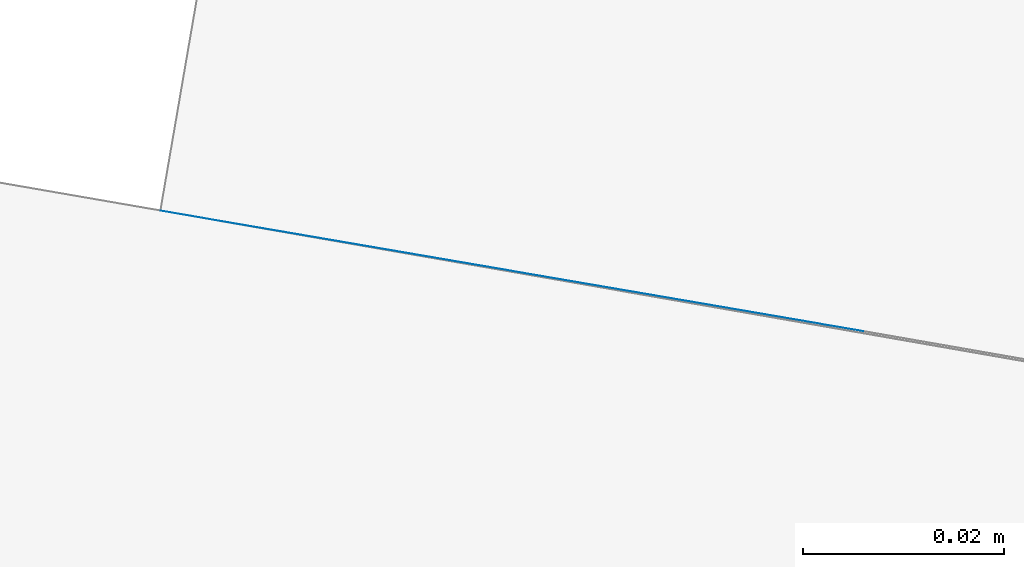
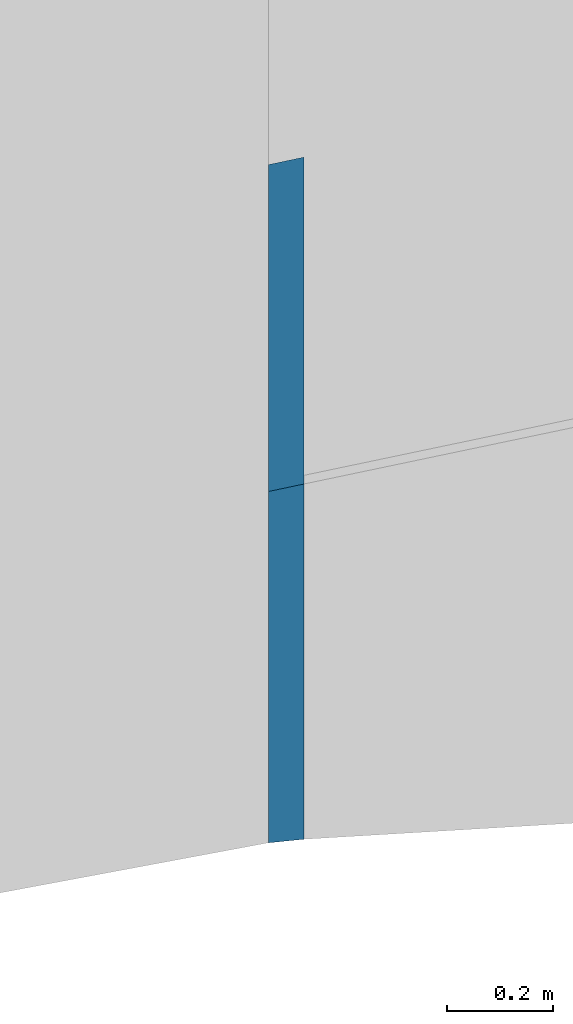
# Not in any storey, part 44 of 57: 3 walls.
"""IFC4 building model written with IfcOpenShell, lengths in metres."""

from ifc_helpers import new_model, entity, si_unit, converted_unit, frame, origin, place, context, subcontext, project, spatial, face_set, surface_model, element, save


model = new_model("IFC4")

# Units and contexts
model_context = context("Model", 3, precision=1e-05, world=origin())
body_context = subcontext(model_context, "Body", "Model", "MODEL_VIEW")
ifc_project = project(units=[converted_unit("PLANEANGLEUNIT", "DEGREE", entity("IfcRatioMeasure", 0.0174532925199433), si_unit("PLANEANGLEUNIT", "RADIAN"), dimensions=[0, 0, 0, 0, 0, 0, 0]), si_unit("AREAUNIT", "SQUARE_METRE"), si_unit("LENGTHUNIT", "METRE")], contexts=[model_context])

# Site, building
site_placement = place(None, origin())
site = spatial("IfcSite", under=ifc_project, at=site_placement, Name="_site")
building_placement = place(site_placement, origin())
building = spatial("IfcBuilding", under=site, at=building_placement, Name="_building")

# Walls
wall_placement = place(building_placement, origin())
element("IfcWall", 1, at=wall_placement, inside=building, Name="Wall", PredefinedType="NOTDEFINED", context=body_context, shape_type="SurfaceModel", body=[
    surface_model("IfcFaceBasedSurfaceModel", [(157.017, 99.75, 111.94), (156.947, 99.762, 111.94), (156.947, 99.762, 111.134), (157.017, 99.75, 111.125)], [face_set([[[0, 1, 2, 3]]])]),
])
for number, where, name in (
    (2, (0.0, 0.0, 0.0), "Wall"),
    (3, (0.0, 0.0, 0.0), "Wall"),
):
    element("IfcWall", number, at=place(building_placement, frame(where)), inside=building, Name=name, PredefinedType="NOTDEFINED", context=body_context, shape_type="SurfaceModel", body=[
        surface_model("IfcFaceBasedSurfaceModel", [(157.017, 99.75, 111.94), (156.947, 99.762, 111.94), (156.947, 99.762, 112.69), (157.017, 99.75, 112.69)], [face_set([[[0, 1, 2, 3]]])]),
    ])

save(model, "model.ifc")
